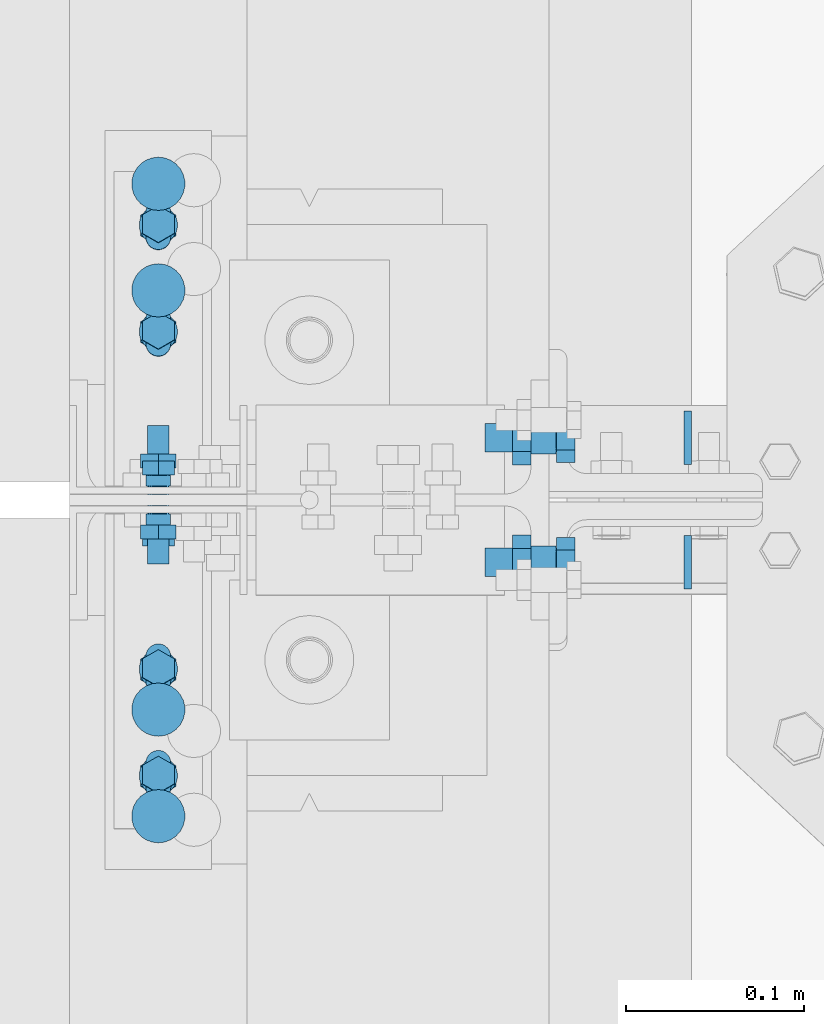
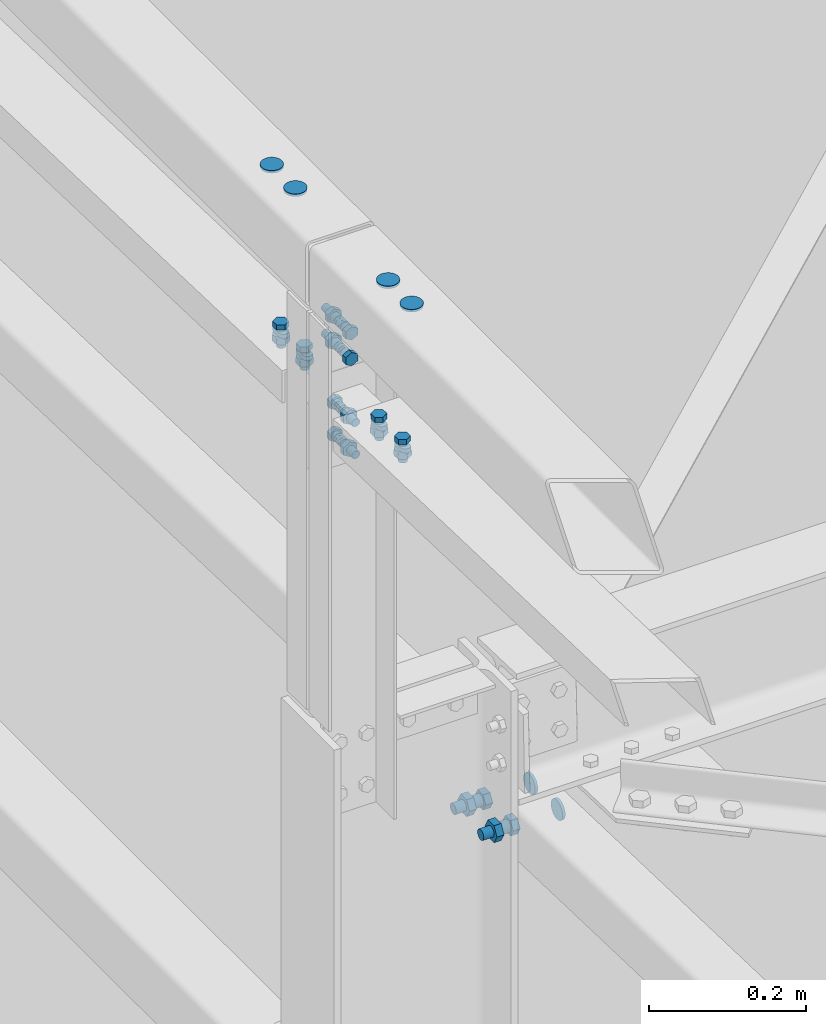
# One storey, part 230 of 362: 10 mechanical fasteners.
"""IFC2X3 building model written with IfcOpenShell, lengths in millimetres."""

from ifc_helpers import new_model, si_unit, frame, frame_2d, origin_with_axes, origin_2d_with_axis, place, context, subcontext, project, spatial, polyline, circle_curve, parameter, trimmed, segment, composite_curve, circle, outline, extrude, source, transform, mapped, material, type_object, element, save


model = new_model("IFC2X3")

# Units and contexts
model_context = context("Model", 3, precision=1e-05, world=origin_with_axes())
body_context = subcontext(model_context, "Body", "Model", "MODEL_VIEW")
ifc_project = project(units=[si_unit("LENGTHUNIT", "METRE", prefix="MILLI"), si_unit("AREAUNIT", "SQUARE_METRE"), si_unit("VOLUMEUNIT", "CUBIC_METRE"), si_unit("MASSUNIT", "GRAM", prefix="KILO"), si_unit("TIMEUNIT", "SECOND"), si_unit("PLANEANGLEUNIT", "RADIAN"), si_unit("SOLIDANGLEUNIT", "STERADIAN"), si_unit("THERMODYNAMICTEMPERATUREUNIT", "DEGREE_CELSIUS"), si_unit("LUMINOUSINTENSITYUNIT", "LUMEN")], contexts=[model_context])

# Site, building, storey
site_placement = place(None, origin_with_axes())
site = spatial("IfcSite", under=ifc_project, at=site_placement, Name="Undefined", CompositionType="ELEMENT")
building_placement = place(site_placement, origin_with_axes())
building = spatial("IfcBuilding", under=site, at=building_placement, Name="Undefined", CompositionType="ELEMENT")
storey_placement = place(building_placement, origin_with_axes())
storey = spatial("IfcBuildingStorey", under=building, at=storey_placement, Name="Undefined", CompositionType="ELEMENT", Elevation=0.0)

# Mechanical fasteners
ifc_material_1 = material(Name="6.8")
mechanical_fastener_type = type_object("IfcMechanicalFastenerType", Name="Bolt assembly")
shared_shape_1 = source(origin_with_axes(), body_context, "Body", "SweptSolid", [
    extrude(circle(Radius=15.0, at=origin_2d_with_axis()), frame((0.0, 0.0, 0.0), z_axis=(0.0, 1.0, 0.0), x_axis=(1.0, 0.0, 0.0)), (0.0, 0.0, 1.0), 4.1),
])
for number, where, z_axis, x_axis, name in (
    (1, (170.0, 7565.0, 7572.14173056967), (0.0, 0.0, -1.0), (0.0, -1.0, 0.0), "Bolt assembly"),
    (2, (170.0, 7635.0, 7569.94189118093), (0.0, 0.0, 1.0), (0.0, 1.0, 0.0), "Bolt assembly"),
):
    element("IfcMechanicalFastener", number, at=place(storey_placement, frame(where, z_axis=z_axis, x_axis=x_axis)), inside=storey, type_object=mechanical_fastener_type, material=ifc_material_1, Name=name, NominalDiameter=30.0, NominalLength=4.0, context=body_context, shape_type="MappedRepresentation", body=[
        mapped(shared_shape_1, transform((0.0, 0.0, 0.0))),
    ])
for number, where, z_axis, x_axis, name in (
    (3, (-129.999999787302, 7778.0, 8550.0), (1.0, 0.0, 0.0), (0.0, -1.0, 0.0), "Bolt assembly"),
    (4, (-129.999999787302, 7422.0, 8550.0), (-1.0, 0.0, 0.0), (0.0, 1.0, 0.0), "Bolt assembly"),
):
    element("IfcMechanicalFastener", number, at=place(storey_placement, frame(where, z_axis=z_axis, x_axis=x_axis)), inside=storey, type_object=mechanical_fastener_type, material=ifc_material_1, Name=name, NominalDiameter=30.0, NominalLength=4.0, context=body_context, shape_type="MappedRepresentation", body=[
        mapped(shared_shape_1, transform((0.0, 0.0, 0.0))),
        mapped(shared_shape_1, transform((60.0, 0.0, 0.0))),
    ])
ifc_material_2 = material(Name="8.8-SB-ZINGUE")
shared_shape_2 = source(origin_with_axes(), body_context, "Body", "SweptSolid", [
    extrude(circle(Radius=9.0, at=origin_2d_with_axis()), frame((0.0, -0.100011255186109, 0.0), z_axis=(0.0, 1.0, 0.0), x_axis=(1.0, 0.0, 0.0)), (0.0, 0.0, 1.0), 10.3),
    extrude(circle(Radius=9.0, at=origin_2d_with_axis()), frame((0.0, -3.89999843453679, 0.0), z_axis=(0.0, 1.0, 0.0), x_axis=(1.0, 0.0, 0.0)), (0.0, 0.0, 1.0), 4.0),
    extrude(outline(polyline([(13.85640646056, 0.0), (6.92820323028, 12.0000000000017), (-6.92820323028, 12.0000000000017), (-13.85640646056, 0.0), (-6.92820323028, -12.0000000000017), (6.92820323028, -12.0000000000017), (13.85640646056, 0.0)])), frame((0.0, -14.560000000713, 0.0), z_axis=(0.0, 1.0, 0.0), x_axis=(1.0, 0.0, 0.0)), (0.0, 0.0, 1.0), 10.56),
    extrude(circle(Radius=8.0, at=origin_2d_with_axis()), frame((0.0, -3.99999923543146, 0.0), z_axis=(0.0, 1.0, 0.0), x_axis=(1.0, 0.0, 0.0)), (0.0, 0.0, 1.0), 40.0),
    extrude(outline(polyline([(15.3344231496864, 0.0), (7.6672115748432, 13.2800000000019), (-7.6672115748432, 13.2800000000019), (-15.3344231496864, 0.0), (-7.6672115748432, -13.2800000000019), (7.6672115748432, -13.2800000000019), (15.3344231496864, 0.0)])), frame((0.0, 10.1999997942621, 0.0), z_axis=(0.0, 1.0, 0.0), x_axis=(1.0, 0.0, 0.0)), (0.0, 0.0, 1.0), 10.56),
])
for number, where, z_axis, x_axis, name in (
    (5, (90.0, 7635.0, 7569.94189118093), (0.0, 0.0, 1.0), (0.0, 1.0, 0.0), "Bolt assembly"),
    (6, (90.0, 7565.0, 7572.14173056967), (0.0, 0.0, -1.0), (0.0, -1.0, 0.0), "Bolt assembly"),
):
    element("IfcMechanicalFastener", number, at=place(storey_placement, frame(where, z_axis=z_axis, x_axis=x_axis)), inside=storey, type_object=mechanical_fastener_type, material=ifc_material_2, Name=name, NominalDiameter=16.0, NominalLength=40.0, context=body_context, shape_type="MappedRepresentation", body=[
        mapped(shared_shape_2, transform((0.0, 0.0, 0.0))),
    ])
shared_shape_3 = source(origin_with_axes(), body_context, "Body", "SweptSolid", [
    extrude(circle(Radius=7.0, at=origin_2d_with_axis()), frame((0.0, 7.89999289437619, 0.0), z_axis=(0.0, 1.0, 0.0), x_axis=(1.0, 0.0, 0.0)), (0.0, 0.0, 1.0), 10.1),
    extrude(circle(Radius=7.0, at=origin_2d_with_axis()), frame((0.0, 3.29999995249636, 0.0), z_axis=(0.0, 1.0, 0.0), x_axis=(1.0, 0.0, 0.0)), (0.0, 0.0, 1.0), 4.0),
    extrude(circle(Radius=7.0, at=origin_2d_with_axis()), frame((0.0, -2.99999932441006, 0.0), z_axis=(0.0, 1.0, 0.0), x_axis=(1.0, 0.0, 0.0)), (0.0, 0.0, 1.0), 6.0),
    extrude(circle(Radius=7.0, at=origin_2d_with_axis()), frame((0.0, -7.29999968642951, 0.0), z_axis=(0.0, 1.0, 0.0), x_axis=(1.0, 0.0, 0.0)), (0.0, 0.0, 1.0), 4.0),
    extrude(circle(Radius=7.0, at=origin_2d_with_axis()), frame((0.0, -17.9000000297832, 0.0), z_axis=(0.0, 1.0, 0.0), x_axis=(1.0, 0.0, 0.0)), (0.0, 0.0, 1.0), 10.0),
    extrude(outline(polyline([(10.39230484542, 0.0), (5.19615242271, 9.00000000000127), (-5.19615242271, 9.00000000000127), (-10.39230484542, 0.0), (-5.19615242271, -9.00000000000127), (5.19615242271, -9.00000000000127), (10.39230484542, 0.0)])), frame((0.0, -25.9200000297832, 0.0), z_axis=(0.0, 1.0, 0.0), x_axis=(1.0, 0.0, 0.0)), (0.0, 0.0, 1.0), 7.92),
    extrude(circle(Radius=6.0, at=origin_2d_with_axis()), frame((0.0, -18.0000000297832, 0.0), z_axis=(0.0, 1.0, 0.0), x_axis=(1.0, 0.0, 0.0)), (0.0, 0.0, 1.0), 60.0),
    extrude(outline(polyline([(11.5008173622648, 0.0), (5.7504086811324, 9.96000000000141), (-5.7504086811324, 9.96000000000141), (-11.5008173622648, 0.0), (-5.7504086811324, -9.96000000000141), (5.7504086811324, -9.96000000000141), (11.5008173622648, 0.0)])), frame((0.0, 17.9999999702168, 0.0), z_axis=(0.0, 1.0, 0.0), x_axis=(1.0, 0.0, 0.0)), (0.0, 0.0, 1.0), 7.92),
])
mechanical_fastener_1_placement = place(storey_placement, frame((-129.999999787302, 7600.00000002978, 8370.0), z_axis=(-1.0, 0.0, 0.0), x_axis=(0.0, 0.0, 1.0)))
element("IfcMechanicalFastener", 7, at=mechanical_fastener_1_placement, inside=storey, type_object=mechanical_fastener_type, material=ifc_material_2, Name="Bolt assembly", NominalDiameter=12.0, NominalLength=60.0, context=body_context, shape_type="MappedRepresentation", body=[
    mapped(shared_shape_3, transform((0.0, 0.0, 0.0))),
    mapped(shared_shape_3, transform((40.0, 0.0, 0.0))),
])
shared_shape_4 = source(origin_with_axes(), body_context, "Body", "SweptSolid", [
    extrude(circle(Radius=7.0, at=origin_2d_with_axis()), frame((0.0, -3.89999843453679, 0.0), z_axis=(0.0, 1.0, 0.0), x_axis=(1.0, 0.0, 0.0)), (0.0, 0.0, 1.0), 4.0),
    extrude(outline(composite_curve([segment(polyline([(-7.0, 7.0), (7.0, 7.0)]), True, "CONTINUOUS"), segment(trimmed(circle_curve(frame_2d((7.0, 0.0), x_axis=(0.0, 1.0)), 7.0), [parameter(0.0)], [parameter(3.14159265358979)], False, "PARAMETER"), True, "CONTINUOUS"), segment(polyline([(7.0, -7.0), (-7.0, -7.0)]), True, "CONTINUOUS"), segment(trimmed(circle_curve(frame_2d((-7.0, 0.0), x_axis=(0.0, -1.0)), 7.0), [parameter(0.0)], [parameter(3.14159265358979)], False, "PARAMETER"), True, "DISCONTINUOUS")], self_intersect=False)), frame((0.0, -0.100011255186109, 0.0), z_axis=(0.0, 1.0, 0.0), x_axis=(1.0, 0.0, 0.0)), (0.0, 0.0, 1.0), 6.1),
    extrude(outline(polyline([(10.39230484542, 0.0), (5.19615242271, 9.00000000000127), (-5.19615242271, 9.00000000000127), (-10.39230484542, 0.0), (-5.19615242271, -9.00000000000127), (5.19615242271, -9.00000000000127), (10.39230484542, 0.0)])), frame((0.0, -11.9199984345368, 0.0), z_axis=(0.0, 1.0, 0.0), x_axis=(1.0, 0.0, 0.0)), (0.0, 0.0, 1.0), 7.92),
    extrude(circle(Radius=6.0, at=origin_2d_with_axis()), frame((0.0, -3.99999923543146, 0.0), z_axis=(0.0, 1.0, 0.0), x_axis=(1.0, 0.0, 0.0)), (0.0, 0.0, 1.0), 30.0),
    extrude(circle(Radius=10.8, at=origin_2d_with_axis()), frame((0.0, 6.0, 0.0), z_axis=(0.0, 1.0, 0.0), x_axis=(1.0, 0.0, 0.0)), (0.0, 0.0, 1.0), 3.96),
    extrude(outline(polyline([(11.5008173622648, 0.0), (5.7504086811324, 9.96000000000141), (-5.7504086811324, 9.96000000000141), (-11.5008173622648, 0.0), (-5.7504086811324, -9.96000000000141), (5.7504086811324, -9.96000000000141), (11.5008173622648, 0.0)])), frame((0.0, 9.9600084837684, 0.0), z_axis=(0.0, 1.0, 0.0), x_axis=(1.0, 0.0, 0.0)), (0.0, 0.0, 1.0), 7.92),
])
mechanical_fastener_2_placement = place(storey_placement, frame((-129.999999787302, 7754.95557192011, 8307.56250616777), z_axis=(1.0, 0.0, 0.0), x_axis=(0.0, -0.999506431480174, 0.0314148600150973)))
element("IfcMechanicalFastener", 8, at=mechanical_fastener_2_placement, inside=storey, type_object=mechanical_fastener_type, material=ifc_material_2, Name="Bolt assembly", NominalDiameter=12.0, NominalLength=30.0, context=body_context, shape_type="MappedRepresentation", body=[
    mapped(shared_shape_4, transform((0.0, 0.0, 0.0))),
    mapped(shared_shape_4, transform((60.0, 0.0, 0.0))),
])
shared_shape_5 = source(origin_with_axes(), body_context, "Body", "SweptSolid", [
    extrude(circle(Radius=7.0, at=origin_2d_with_axis()), frame((0.0, -13.9000000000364, 0.0), z_axis=(0.0, 1.0, 0.0), x_axis=(1.0, 0.0, 0.0)), (0.0, 0.0, 1.0), 6.0),
    extrude(circle(Radius=7.0, at=origin_2d_with_axis()), frame((0.0, -7.29999968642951, 0.0), z_axis=(0.0, 1.0, 0.0), x_axis=(1.0, 0.0, 0.0)), (0.0, 0.0, 1.0), 4.0),
    extrude(circle(Radius=7.0, at=origin_2d_with_axis()), frame((0.0, -2.99999932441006, 0.0), z_axis=(0.0, 1.0, 0.0), x_axis=(1.0, 0.0, 0.0)), (0.0, 0.0, 1.0), 6.0),
    extrude(circle(Radius=7.0, at=origin_2d_with_axis()), frame((0.0, 3.29999995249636, 0.0), z_axis=(0.0, 1.0, 0.0), x_axis=(1.0, 0.0, 0.0)), (0.0, 0.0, 1.0), 4.0),
    extrude(circle(Radius=7.0, at=origin_2d_with_axis()), frame((0.0, 7.89999289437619, 0.0), z_axis=(0.0, 1.0, 0.0), x_axis=(1.0, 0.0, 0.0)), (0.0, 0.0, 1.0), 6.1),
    extrude(outline(polyline([(10.39230484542, 0.0), (5.19615242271, 9.00000000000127), (-5.19615242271, 9.00000000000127), (-10.39230484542, 0.0), (-5.19615242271, -9.00000000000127), (5.19615242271, -9.00000000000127), (10.39230484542, 0.0)])), frame((0.0, -21.9200000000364, 0.0), z_axis=(0.0, 1.0, 0.0), x_axis=(1.0, 0.0, 0.0)), (0.0, 0.0, 1.0), 7.92),
    extrude(circle(Radius=6.0, at=origin_2d_with_axis()), frame((0.0, -14.0000000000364, 0.0), z_axis=(0.0, 1.0, 0.0), x_axis=(1.0, 0.0, 0.0)), (0.0, 0.0, 1.0), 50.0),
    extrude(outline(polyline([(11.5008173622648, 0.0), (5.7504086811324, 9.96000000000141), (-5.7504086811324, 9.96000000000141), (-11.5008173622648, 0.0), (-5.7504086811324, -9.96000000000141), (5.7504086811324, -9.96000000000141), (11.5008173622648, 0.0)])), frame((0.0, 13.9999928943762, 0.0), z_axis=(0.0, 1.0, 0.0), x_axis=(1.0, 0.0, 0.0)), (0.0, 0.0, 1.0), 7.92),
])
mechanical_fastener_3_placement = place(storey_placement, frame((-129.999999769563, 7600.0, 8227.43274813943), z_axis=(1.0, 0.0, 0.0), x_axis=(0.0, 0.0, 1.0)))
element("IfcMechanicalFastener", 9, at=mechanical_fastener_3_placement, inside=storey, type_object=mechanical_fastener_type, material=ifc_material_2, Name="Bolt assembly", NominalDiameter=12.0, NominalLength=50.0, context=body_context, shape_type="MappedRepresentation", body=[
    mapped(shared_shape_5, transform((0.0, 0.0, 0.0))),
    mapped(shared_shape_5, transform((49.9999999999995, 0.0, -3.63797880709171e-12))),
])
shared_shape_6 = source(origin_with_axes(), body_context, "Body", "SweptSolid", [
    extrude(circle(Radius=7.0, at=origin_2d_with_axis()), frame((0.0, -3.89999843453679, 0.0), z_axis=(0.0, 1.0, 0.0), x_axis=(1.0, 0.0, 0.0)), (0.0, 0.0, 1.0), 4.0),
    extrude(outline(composite_curve([segment(polyline([(-7.0, 7.0), (7.0, 7.0)]), True, "CONTINUOUS"), segment(trimmed(circle_curve(frame_2d((7.0, 0.0), x_axis=(0.0, 1.0)), 7.0), [parameter(0.0)], [parameter(3.14159265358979)], False, "PARAMETER"), True, "CONTINUOUS"), segment(polyline([(7.0, -7.0), (-7.0, -7.0)]), True, "CONTINUOUS"), segment(trimmed(circle_curve(frame_2d((-7.0, 0.0), x_axis=(0.0, -1.0)), 7.0), [parameter(0.0)], [parameter(3.14159265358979)], False, "PARAMETER"), True, "DISCONTINUOUS")], self_intersect=False)), frame((0.0, -0.100011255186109, 0.0), z_axis=(0.0, 1.0, 0.0), x_axis=(1.0, 0.0, 0.0)), (0.0, 0.0, 1.0), 6.1),
    extrude(outline(polyline([(10.39230484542, 0.0), (5.19615242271, 9.00000000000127), (-5.19615242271, 9.00000000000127), (-10.39230484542, 0.0), (-5.19615242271, -9.00000000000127), (5.19615242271, -9.00000000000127), (10.39230484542, 0.0)])), frame((0.0, -11.9199984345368, 0.0), z_axis=(0.0, 1.0, 0.0), x_axis=(1.0, 0.0, 0.0)), (0.0, 0.0, 1.0), 7.92),
    extrude(circle(Radius=6.0, at=origin_2d_with_axis()), frame((0.0, -3.99999923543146, 0.0), z_axis=(0.0, 1.0, 0.0), x_axis=(1.0, 0.0, 0.0)), (0.0, 0.0, 1.0), 30.0),
    extrude(circle(Radius=10.8, at=origin_2d_with_axis()), frame((0.0, 6.0, 0.0), z_axis=(0.0, 1.0, 0.0), x_axis=(1.0, 0.0, 0.0)), (0.0, 0.0, 1.0), 3.96),
    extrude(outline(polyline([(11.5008173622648, 0.0), (5.7504086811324, 9.96000000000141), (-5.7504086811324, 9.96000000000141), (-11.5008173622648, 0.0), (-5.7504086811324, -9.96000000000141), (5.7504086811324, -9.96000000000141), (11.5008173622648, 0.0)])), frame((0.0, 9.9600084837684, 0.0), z_axis=(0.0, 1.0, 0.0), x_axis=(1.0, 0.0, 0.0)), (0.0, 0.0, 1.0), 7.92),
])
mechanical_fastener_4_placement = place(storey_placement, frame((-129.999999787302, 7445.0444201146, 8317.30299256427), z_axis=(-1.0, 0.0, 0.0), x_axis=(0.0, 0.99950644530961, -0.0314144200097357)))
element("IfcMechanicalFastener", 10, at=mechanical_fastener_4_placement, inside=storey, type_object=mechanical_fastener_type, material=ifc_material_2, Name="Bolt assembly", NominalDiameter=12.0, NominalLength=30.0, context=body_context, shape_type="MappedRepresentation", body=[
    mapped(shared_shape_6, transform((0.0, 0.0, 0.0))),
    mapped(shared_shape_6, transform((60.0, 0.0, 0.0))),
])

save(model, "model.ifc")
